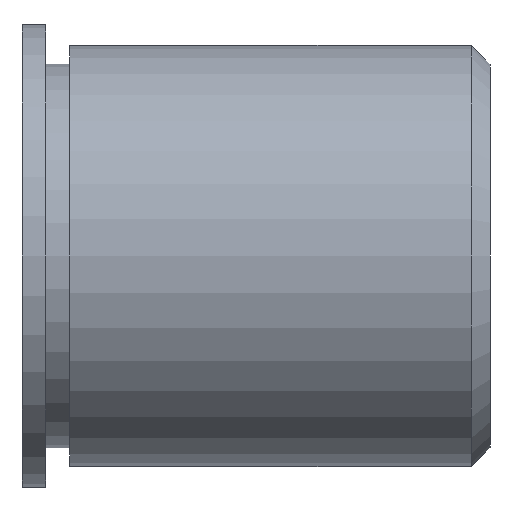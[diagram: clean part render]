
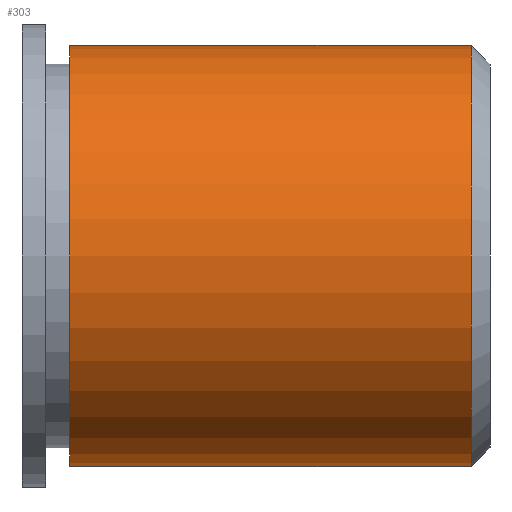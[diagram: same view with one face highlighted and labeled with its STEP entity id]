
A CAD part, front view. The second image highlights one B-rep face of the part: STEP entity #303.
In plain terms, the highlighted cylindrical face has radius 2.25 mm (diameter 4.5 mm), a partial arc.
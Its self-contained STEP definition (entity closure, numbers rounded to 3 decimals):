
#1 = CIRCLE ( 'NONE', #245, 2.25 ) ;
#9 = ORIENTED_EDGE ( 'NONE', *, *, #410, .F. ) ;
#40 = CARTESIAN_POINT ( 'NONE',  ( 69.722, 0., 2.25 ) ) ;
#72 = FACE_OUTER_BOUND ( 'NONE', #543, .T. ) ;
#123 = DIRECTION ( 'NONE',  ( -1., 0., 0. ) ) ;
#129 = CIRCLE ( 'NONE', #250, 2.25 ) ;
#142 = VERTEX_POINT ( 'NONE', #542 ) ;
#148 = DIRECTION ( 'NONE',  ( -1., 0., 0. ) ) ;
#149 = DIRECTION ( 'NONE',  ( 0., 0., 1. ) ) ;
#158 = CARTESIAN_POINT ( 'NONE',  ( -67.825, 0., 2.25 ) ) ;
#166 = LINE ( 'NONE', #231, #268 ) ;
#167 = ORIENTED_EDGE ( 'NONE', *, *, #356, .F. ) ;
#172 = VERTEX_POINT ( 'NONE', #40 ) ;
#178 = CARTESIAN_POINT ( 'NONE',  ( 69.722, 0., 0. ) ) ;
#197 = DIRECTION ( 'NONE',  ( -1., 0., 0. ) ) ;
#231 = CARTESIAN_POINT ( 'NONE',  ( -67.825, 0., -2.25 ) ) ;
#245 = AXIS2_PLACEMENT_3D ( 'NONE', #178, #123, #149 ) ;
#250 = AXIS2_PLACEMENT_3D ( 'NONE', #425, #394, #254 ) ;
#254 = DIRECTION ( 'NONE',  ( 0., 0., 1. ) ) ;
#268 = VECTOR ( 'NONE', #197, 1000. ) ;
#271 = ORIENTED_EDGE ( 'NONE', *, *, #395, .T. ) ;
#273 = VERTEX_POINT ( 'NONE', #511 ) ;
#303 = ADVANCED_FACE ( 'NONE', ( #72 ), #535, .T. ) ;
#328 = VERTEX_POINT ( 'NONE', #373 ) ;
#356 = EDGE_CURVE ( 'NONE', #328, #142, #166, .T. ) ;
#367 = ORIENTED_EDGE ( 'NONE', *, *, #380, .T. ) ;
#373 = CARTESIAN_POINT ( 'NONE',  ( 74.014, 0., -2.25 ) ) ;
#380 = EDGE_CURVE ( 'NONE', #273, #172, #389, .T. ) ;
#389 = LINE ( 'NONE', #158, #467 ) ;
#394 = DIRECTION ( 'NONE',  ( -1., 0., 0. ) ) ;
#395 = EDGE_CURVE ( 'NONE', #328, #273, #129, .T. ) ;
#410 = EDGE_CURVE ( 'NONE', #142, #172, #1, .T. ) ;
#425 = CARTESIAN_POINT ( 'NONE',  ( 74.014, 0., 0. ) ) ;
#467 = VECTOR ( 'NONE', #148, 1000. ) ;
#471 = DIRECTION ( 'NONE',  ( 0., 0., 1. ) ) ;
#472 = AXIS2_PLACEMENT_3D ( 'NONE', #475, #509, #471 ) ;
#475 = CARTESIAN_POINT ( 'NONE',  ( -67.825, 0., 0. ) ) ;
#509 = DIRECTION ( 'NONE',  ( -1., 0., 0. ) ) ;
#511 = CARTESIAN_POINT ( 'NONE',  ( 74.014, 0., 2.25 ) ) ;
#535 = CYLINDRICAL_SURFACE ( 'NONE', #472, 2.25 ) ;
#542 = CARTESIAN_POINT ( 'NONE',  ( 69.722, 0., -2.25 ) ) ;
#543 = EDGE_LOOP ( 'NONE', ( #167, #271, #367, #9 ) ) ;
